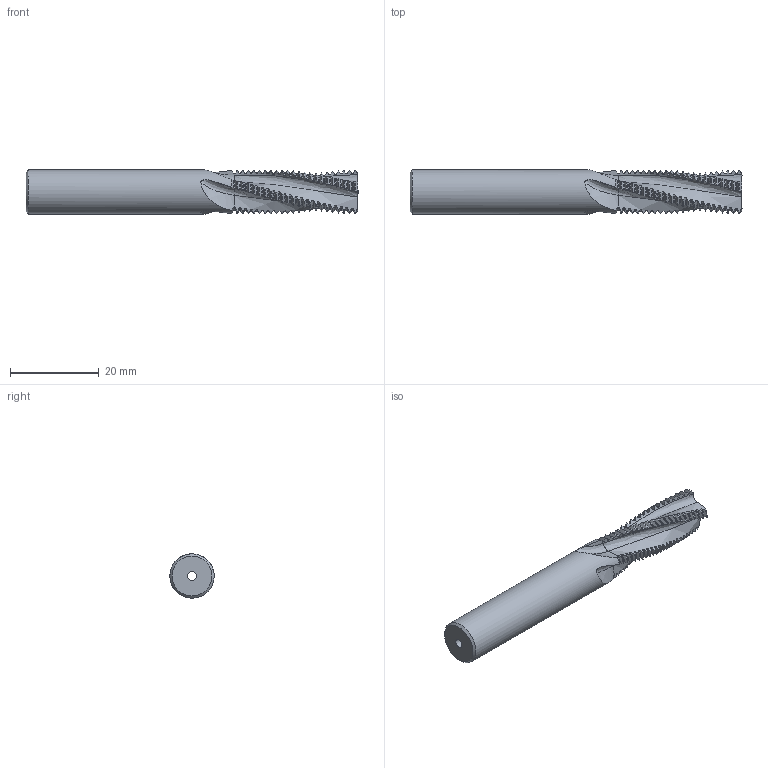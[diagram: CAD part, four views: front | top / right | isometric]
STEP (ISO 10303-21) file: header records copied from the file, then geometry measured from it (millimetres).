
FILE_DESCRIPTION(/* description */ (''),/* implementation_level */ '2;1');
FILE_NAME(/* name */ '00032356-STEP',/* time_stamp */ '2024-02-21T07:57:15+01:00',/* author */ (''),/* organization */ (''),/* preprocessor_version */ 'ST-DEVELOPER v16.5',/* originating_system */ 'HiCAD 2017 2201.0 Build 268',/* authorisation */ '');
FILE_SCHEMA (('AUTOMOTIVE_DESIGN { 1 0 10303 214 1 1 1 1 }'));
Products named in the file (2): Root; ROTATIONSTEIL_0
Assembly tree (1 placements, depth 2):
  Root
    ROTATIONSTEIL_0
Bounding box: 75 x 10 x 10 mm (x, y, z)
Volume: 4315.7 mm3; surface area: 3060.5 mm2
Topology: 1 solids, 1 shells, 569 faces, 1697 edges, 1130 vertices
Faces by surface type: cylinder 182, cone 181, torus 180, bspline 24, plane 2
Full cylindrical faces by diameter (mm): 2 x1, 10 x1
Entity records: 57692 total; most frequent: CARTESIAN_POINT 28447, PRESENTATION_STYLE_ASSIGNMENT 3383, COLOUR_RGB 3383, DRAUGHTING_PRE_DEFINED_CURVE_FONT 3382, CURVE_STYLE 3382, OVER_RIDING_STYLED_ITEM 3382, ORIENTED_EDGE 3382, DIRECTION 2192
